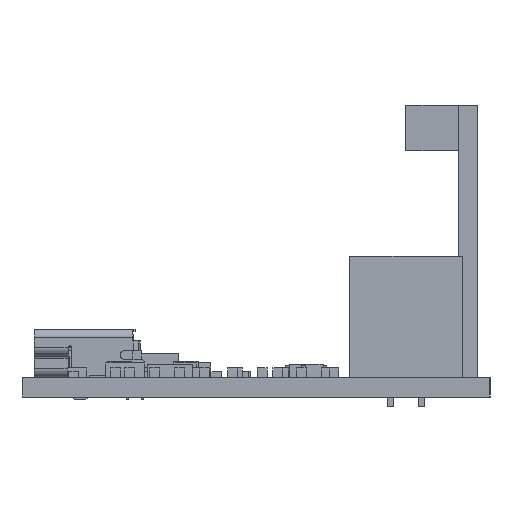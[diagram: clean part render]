
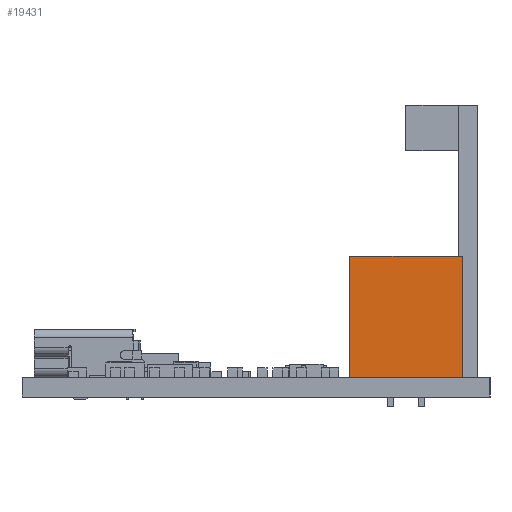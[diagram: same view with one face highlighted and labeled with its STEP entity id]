
A CAD part, left-side view. The second image highlights one B-rep face of the part: STEP entity #19431.
In plain terms, the highlighted planar face has unit normal (-1, 0, 0).
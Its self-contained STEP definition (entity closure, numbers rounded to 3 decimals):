
#19168 = EDGE_CURVE('',#19169,#19171,#19173,.T.);
#19169 = VERTEX_POINT('',#19170);
#19170 = CARTESIAN_POINT('',(-0.635,4.572,0.));
#19171 = VERTEX_POINT('',#19172);
#19172 = CARTESIAN_POINT('',(-0.635,4.572,9.906));
#19173 = SURFACE_CURVE('',#19174,(#19178,#19190),.PCURVE_S1.);
#19174 = LINE('',#19175,#19176);
#19175 = CARTESIAN_POINT('',(-0.635,4.572,0.));
#19176 = VECTOR('',#19177,1.);
#19177 = DIRECTION('',(0.,0.,1.));
#19178 = PCURVE('',#19179,#19184);
#19179 = PLANE('',#19180);
#19180 = AXIS2_PLACEMENT_3D('',#19181,#19182,#19183);
#19181 = CARTESIAN_POINT('',(-0.635,4.572,0.));
#19182 = DIRECTION('',(0.,1.,0.));
#19183 = DIRECTION('',(1.,0.,0.));
#19184 = DEFINITIONAL_REPRESENTATION('',(#19185),#19189);
#19185 = LINE('',#19186,#19187);
#19186 = CARTESIAN_POINT('',(0.,0.));
#19187 = VECTOR('',#19188,1.);
#19188 = DIRECTION('',(0.,-1.));
#19189 = ( GEOMETRIC_REPRESENTATION_CONTEXT(2) 
PARAMETRIC_REPRESENTATION_CONTEXT() REPRESENTATION_CONTEXT('2D SPACE',''
  ) );
#19190 = PCURVE('',#19191,#19196);
#19191 = PLANE('',#19192);
#19192 = AXIS2_PLACEMENT_3D('',#19193,#19194,#19195);
#19193 = CARTESIAN_POINT('',(-0.635,-4.572,0.));
#19194 = DIRECTION('',(-1.,0.,0.));
#19195 = DIRECTION('',(0.,1.,0.));
#19196 = DEFINITIONAL_REPRESENTATION('',(#19197),#19201);
#19197 = LINE('',#19198,#19199);
#19198 = CARTESIAN_POINT('',(9.144,0.));
#19199 = VECTOR('',#19200,1.);
#19200 = DIRECTION('',(0.,-1.));
#19201 = ( GEOMETRIC_REPRESENTATION_CONTEXT(2) 
PARAMETRIC_REPRESENTATION_CONTEXT() REPRESENTATION_CONTEXT('2D SPACE',''
  ) );
#19219 = PLANE('',#19220);
#19220 = AXIS2_PLACEMENT_3D('',#19221,#19222,#19223);
#19221 = CARTESIAN_POINT('',(-0.635,4.572,9.906));
#19222 = DIRECTION('',(0.,0.,1.));
#19223 = DIRECTION('',(1.,0.,0.));
#19273 = PLANE('',#19274);
#19274 = AXIS2_PLACEMENT_3D('',#19275,#19276,#19277);
#19275 = CARTESIAN_POINT('',(-0.635,4.572,0.));
#19276 = DIRECTION('',(0.,0.,1.));
#19277 = DIRECTION('',(1.,0.,0.));
#19328 = PLANE('',#19329);
#19329 = AXIS2_PLACEMENT_3D('',#19330,#19331,#19332);
#19330 = CARTESIAN_POINT('',(0.635,-4.572,0.));
#19331 = DIRECTION('',(0.,-1.,0.));
#19332 = DIRECTION('',(-1.,0.,0.));
#19366 = VERTEX_POINT('',#19367);
#19367 = CARTESIAN_POINT('',(-0.635,-4.572,9.906));
#19388 = EDGE_CURVE('',#19389,#19366,#19391,.T.);
#19389 = VERTEX_POINT('',#19390);
#19390 = CARTESIAN_POINT('',(-0.635,-4.572,0.));
#19391 = SURFACE_CURVE('',#19392,(#19396,#19403),.PCURVE_S1.);
#19392 = LINE('',#19393,#19394);
#19393 = CARTESIAN_POINT('',(-0.635,-4.572,0.));
#19394 = VECTOR('',#19395,1.);
#19395 = DIRECTION('',(0.,0.,1.));
#19396 = PCURVE('',#19328,#19397);
#19397 = DEFINITIONAL_REPRESENTATION('',(#19398),#19402);
#19398 = LINE('',#19399,#19400);
#19399 = CARTESIAN_POINT('',(1.27,0.));
#19400 = VECTOR('',#19401,1.);
#19401 = DIRECTION('',(0.,-1.));
#19402 = ( GEOMETRIC_REPRESENTATION_CONTEXT(2) 
PARAMETRIC_REPRESENTATION_CONTEXT() REPRESENTATION_CONTEXT('2D SPACE',''
  ) );
#19403 = PCURVE('',#19191,#19404);
#19404 = DEFINITIONAL_REPRESENTATION('',(#19405),#19409);
#19405 = LINE('',#19406,#19407);
#19406 = CARTESIAN_POINT('',(0.,0.));
#19407 = VECTOR('',#19408,1.);
#19408 = DIRECTION('',(0.,-1.));
#19409 = ( GEOMETRIC_REPRESENTATION_CONTEXT(2) 
PARAMETRIC_REPRESENTATION_CONTEXT() REPRESENTATION_CONTEXT('2D SPACE',''
  ) );
#19431 = ADVANCED_FACE('',(#19432),#19191,.T.);
#19432 = FACE_BOUND('',#19433,.T.);
#19433 = EDGE_LOOP('',(#19434,#19435,#19456,#19457));
#19434 = ORIENTED_EDGE('',*,*,#19388,.T.);
#19435 = ORIENTED_EDGE('',*,*,#19436,.T.);
#19436 = EDGE_CURVE('',#19366,#19171,#19437,.T.);
#19437 = SURFACE_CURVE('',#19438,(#19442,#19449),.PCURVE_S1.);
#19438 = LINE('',#19439,#19440);
#19439 = CARTESIAN_POINT('',(-0.635,-4.572,9.906));
#19440 = VECTOR('',#19441,1.);
#19441 = DIRECTION('',(0.,1.,0.));
#19442 = PCURVE('',#19191,#19443);
#19443 = DEFINITIONAL_REPRESENTATION('',(#19444),#19448);
#19444 = LINE('',#19445,#19446);
#19445 = CARTESIAN_POINT('',(0.,-9.906));
#19446 = VECTOR('',#19447,1.);
#19447 = DIRECTION('',(1.,0.));
#19448 = ( GEOMETRIC_REPRESENTATION_CONTEXT(2) 
PARAMETRIC_REPRESENTATION_CONTEXT() REPRESENTATION_CONTEXT('2D SPACE',''
  ) );
#19449 = PCURVE('',#19219,#19450);
#19450 = DEFINITIONAL_REPRESENTATION('',(#19451),#19455);
#19451 = LINE('',#19452,#19453);
#19452 = CARTESIAN_POINT('',(0.,-9.144));
#19453 = VECTOR('',#19454,1.);
#19454 = DIRECTION('',(0.,1.));
#19455 = ( GEOMETRIC_REPRESENTATION_CONTEXT(2) 
PARAMETRIC_REPRESENTATION_CONTEXT() REPRESENTATION_CONTEXT('2D SPACE',''
  ) );
#19456 = ORIENTED_EDGE('',*,*,#19168,.F.);
#19457 = ORIENTED_EDGE('',*,*,#19458,.F.);
#19458 = EDGE_CURVE('',#19389,#19169,#19459,.T.);
#19459 = SURFACE_CURVE('',#19460,(#19464,#19471),.PCURVE_S1.);
#19460 = LINE('',#19461,#19462);
#19461 = CARTESIAN_POINT('',(-0.635,-4.572,0.));
#19462 = VECTOR('',#19463,1.);
#19463 = DIRECTION('',(0.,1.,0.));
#19464 = PCURVE('',#19191,#19465);
#19465 = DEFINITIONAL_REPRESENTATION('',(#19466),#19470);
#19466 = LINE('',#19467,#19468);
#19467 = CARTESIAN_POINT('',(0.,0.));
#19468 = VECTOR('',#19469,1.);
#19469 = DIRECTION('',(1.,0.));
#19470 = ( GEOMETRIC_REPRESENTATION_CONTEXT(2) 
PARAMETRIC_REPRESENTATION_CONTEXT() REPRESENTATION_CONTEXT('2D SPACE',''
  ) );
#19471 = PCURVE('',#19273,#19472);
#19472 = DEFINITIONAL_REPRESENTATION('',(#19473),#19477);
#19473 = LINE('',#19474,#19475);
#19474 = CARTESIAN_POINT('',(0.,-9.144));
#19475 = VECTOR('',#19476,1.);
#19476 = DIRECTION('',(0.,1.));
#19477 = ( GEOMETRIC_REPRESENTATION_CONTEXT(2) 
PARAMETRIC_REPRESENTATION_CONTEXT() REPRESENTATION_CONTEXT('2D SPACE',''
  ) );
